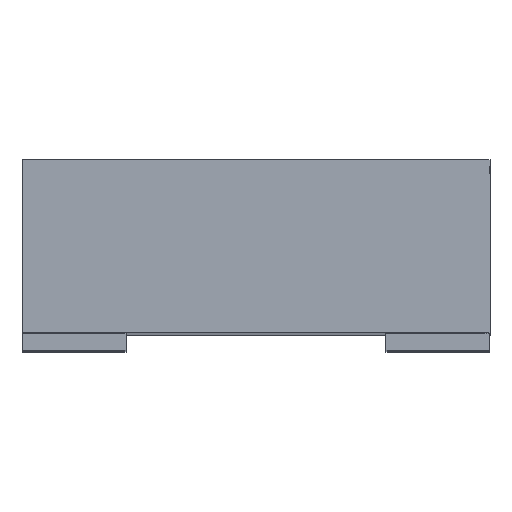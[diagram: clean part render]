
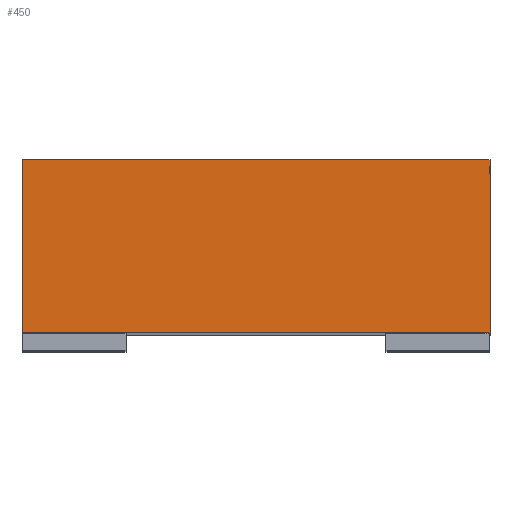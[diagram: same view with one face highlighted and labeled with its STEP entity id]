
A CAD part, top view. The second image highlights one B-rep face of the part: STEP entity #450.
In plain terms, the highlighted planar face has unit normal (0, 0, 1).
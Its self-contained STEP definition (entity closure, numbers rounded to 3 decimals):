
#229 = DIRECTION ( 'NONE',  ( -1., 0., 0. ) ) ;
#450 = ADVANCED_FACE ( 'NONE', ( #4340 ), #2840, .F. ) ;
#719 = CARTESIAN_POINT ( 'NONE',  ( 0.675, 0.05, 1.75 ) ) ;
#949 = DIRECTION ( 'NONE',  ( 0., -1., 0. ) ) ;
#1218 = CARTESIAN_POINT ( 'NONE',  ( 0.675, 0.55, 1.75 ) ) ;
#1345 = ORIENTED_EDGE ( 'NONE', *, *, #3146, .F. ) ;
#1410 = CARTESIAN_POINT ( 'NONE',  ( -0.675, 4.851, 1.75 ) ) ;
#1652 = LINE ( 'NONE', #719, #5199 ) ;
#1738 = CARTESIAN_POINT ( 'NONE',  ( -0.675, 0.55, 1.75 ) ) ;
#1833 = VERTEX_POINT ( 'NONE', #3429 ) ;
#2124 = VERTEX_POINT ( 'NONE', #2274 ) ;
#2274 = CARTESIAN_POINT ( 'NONE',  ( -0.675, 0.05, 1.75 ) ) ;
#2415 = CARTESIAN_POINT ( 'NONE',  ( 0.675, 4.851, 1.75 ) ) ;
#2606 = VERTEX_POINT ( 'NONE', #4102 ) ;
#2656 = VECTOR ( 'NONE', #949, 1000. ) ;
#2739 = AXIS2_PLACEMENT_3D ( 'NONE', #4920, #3271, #229 ) ;
#2800 = VECTOR ( 'NONE', #5083, 1000. ) ;
#2840 = PLANE ( 'NONE',  #2739 ) ;
#2882 = DIRECTION ( 'NONE',  ( 1., 0., 0. ) ) ;
#3014 = VECTOR ( 'NONE', #5420, 1000. ) ;
#3021 = EDGE_CURVE ( 'NONE', #2124, #1833, #1652, .T. ) ;
#3126 = ORIENTED_EDGE ( 'NONE', *, *, #3021, .T. ) ;
#3146 = EDGE_CURVE ( 'NONE', #4573, #2606, #4654, .T. ) ;
#3235 = ORIENTED_EDGE ( 'NONE', *, *, #4771, .F. ) ;
#3271 = DIRECTION ( 'NONE',  ( 0., 0., -1. ) ) ;
#3429 = CARTESIAN_POINT ( 'NONE',  ( 0.675, 0.05, 1.75 ) ) ;
#4102 = CARTESIAN_POINT ( 'NONE',  ( 0.675, 0.55, 1.75 ) ) ;
#4139 = EDGE_LOOP ( 'NONE', ( #1345, #5021, #3126, #3235 ) ) ;
#4156 = LINE ( 'NONE', #2415, #3014 ) ;
#4340 = FACE_OUTER_BOUND ( 'NONE', #4139, .T. ) ;
#4573 = VERTEX_POINT ( 'NONE', #1738 ) ;
#4654 = LINE ( 'NONE', #1218, #2800 ) ;
#4691 = EDGE_CURVE ( 'NONE', #4573, #2124, #5007, .T. ) ;
#4771 = EDGE_CURVE ( 'NONE', #2606, #1833, #4156, .T. ) ;
#4920 = CARTESIAN_POINT ( 'NONE',  ( 0.675, 4.851, 1.75 ) ) ;
#5007 = LINE ( 'NONE', #1410, #2656 ) ;
#5021 = ORIENTED_EDGE ( 'NONE', *, *, #4691, .T. ) ;
#5083 = DIRECTION ( 'NONE',  ( 1., 0., 0. ) ) ;
#5199 = VECTOR ( 'NONE', #2882, 1000. ) ;
#5420 = DIRECTION ( 'NONE',  ( 0., -1., 0. ) ) ;
